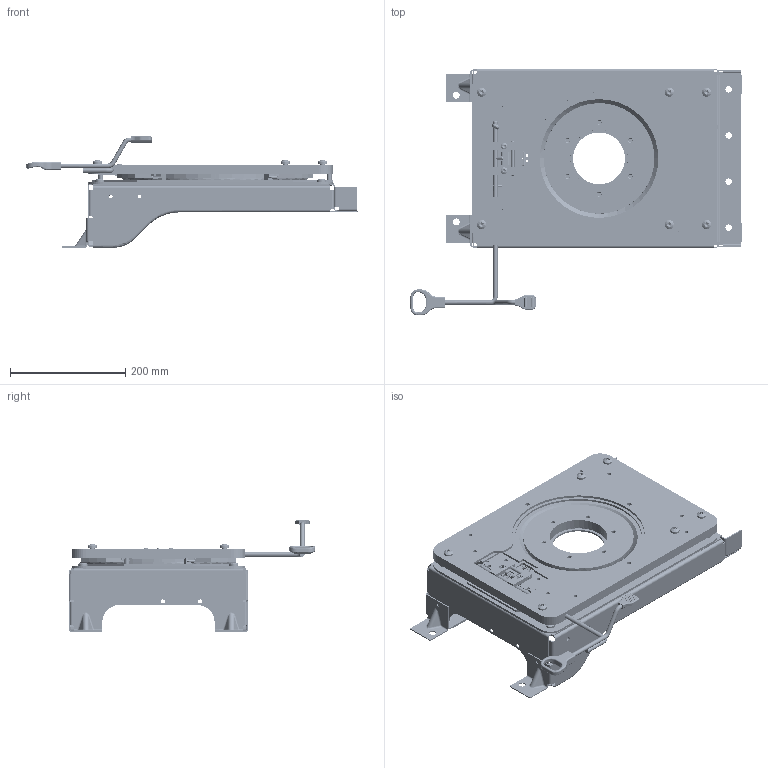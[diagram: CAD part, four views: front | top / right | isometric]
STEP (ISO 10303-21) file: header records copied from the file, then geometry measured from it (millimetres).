
FILE_DESCRIPTION(('CATIA V5 STEP Exchange'),'2;1');
FILE_NAME('D:\交接\张长江\21-Benz H6\光华荣昌转盘数据\H6 转盘\转盘用整椅数据 A9609109920\sample\H6 转盘夏季测试样件方案_20240617\样件数据\SHT0017298R 副驾驶员转盘底支架总成.stp','2024-06-19T08:28:01+00:00',('none'),('none'),'CATIA Version 5 Release 20 GA (IN-10)','CATIA V5 STEP AP203 Edition 2','none');
FILE_SCHEMA(('AP203_CONFIGURATION_CONTROLLED_3D_DESIGN_OF_MECHANICAL_PARTS_AND_ASSEMBLIES_MIM_LF { 1 0 10303 403 2 1 2}'));
Products named in the file (32): SHT0017298; SHT0010844-for H6 swivel; SHT0010851-for H6 swivel; SHT0010854-for H6 swivel; SHT0010852-for H6 swivel; SHT0010853-for H6 swivel; SHT0010845-for H6 swivel; SHT0010846-for H6 swivel; SHT0010847-for H6 swivel; SHT0010848-for H6 swivel; SHT0010850-for H6 swivel; SHT0010844-H-for H6 swivel; BFA0010062; BFA0000316; 上部; SHT0017294-3; SHT0017294-6; SHT0017294-15; BFA0010089; SHT0017294-11; SHT0017294-10; SHT0017294-14; BFA0010021; Q5280320; Q5280420; 下部; SHT0017294-1; SHT0017294-7; SHT0017294-2; SHT0017294-4; SHT0017294-5; SHT0017294-000
Assembly tree (78 placements, depth 4):
  SHT0017298
    SHT0010844-for H6 swivel
      SHT0010851-for H6 swivel
      SHT0010854-for H6 swivel
      SHT0010852-for H6 swivel
      SHT0010853-for H6 swivel
      SHT0010845-for H6 swivel
        SHT0010846-for H6 swivel
      SHT0010847-for H6 swivel
        SHT0010848-for H6 swivel
      SHT0010850-for H6 swivel
      SHT0010844-H-for H6 swivel
      BFA0010062  x4
      BFA0000316  x2
    上部
      SHT0017294-3
      SHT0017294-6  x4
      SHT0017294-15  x4
      BFA0010062  x6
      BFA0010089  x6
      SHT0017294-11
      SHT0017294-10
      SHT0017294-14  x2
      BFA0010021  x2
      BFA0000316  x2
      Q5280320
      Q5280420  x2
    下部
      SHT0017294-1
      SHT0017294-7  x4
      SHT0017294-2
      SHT0017294-4
      SHT0017294-5
      SHT0017294-000
      BFA0010089  x12
      BFA0010062  x6
Bounding box: 575 x 428.5 x 194 mm (x, y, z)
Volume: 2561164.5 mm3; surface area: 1658559.9 mm2
Topology: 161 solids, 166 shells, 4895 faces, 13221 edges, 8059 vertices
Faces by surface type: cylinder 1844, plane 1556, cone 578, sphere 296, bspline 243, torus 212, extrusion 94, revolution 72
Entity records: 102389 total; most frequent: CARTESIAN_POINT 39497, ORIENTED_EDGE 13982, DIRECTION 9868, EDGE_CURVE 6873, AXIS2_PLACEMENT_3D 4435, VERTEX_POINT 4369, EDGE_LOOP 3150, VECTOR 3120
